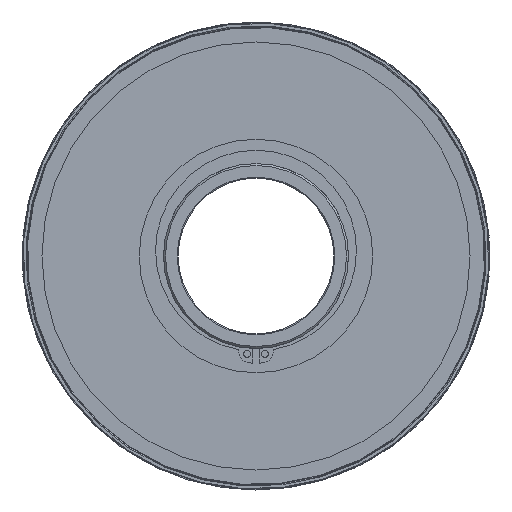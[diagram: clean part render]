
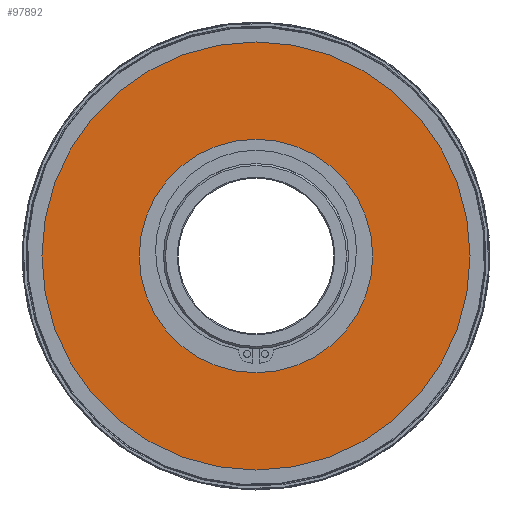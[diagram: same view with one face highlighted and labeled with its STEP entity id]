
A CAD part, left-side view. The second image highlights one B-rep face of the part: STEP entity #97892.
In plain terms, the highlighted planar face has unit normal (-1, 0, 0).
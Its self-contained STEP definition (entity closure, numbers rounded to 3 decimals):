
#447=FACE_BOUND('',#7637,.T.);
#770=PLANE('',#107004);
#2909=FACE_OUTER_BOUND('',#7636,.T.);
#7636=EDGE_LOOP('',(#68908));
#7637=EDGE_LOOP('',(#68909));
#26009=CIRCLE('',#107003,60.);
#26010=CIRCLE('',#107005,110.);
#36783=VERTEX_POINT('',#164821);
#36784=VERTEX_POINT('',#164825);
#49100=EDGE_CURVE('',#36783,#36783,#26009,.T.);
#49102=EDGE_CURVE('',#36784,#36784,#26010,.T.);
#68908=ORIENTED_EDGE('',*,*,#49102,.T.);
#68909=ORIENTED_EDGE('',*,*,#49100,.F.);
#97892=ADVANCED_FACE('',(#2909,#447),#770,.T.);
#107003=AXIS2_PLACEMENT_3D('',#164822,#130649,#130650);
#107004=AXIS2_PLACEMENT_3D('',#164824,#130652,#130653);
#107005=AXIS2_PLACEMENT_3D('',#164826,#130654,#130655);
#130649=DIRECTION('center_axis',(-1.,0.,0.));
#130650=DIRECTION('ref_axis',(0.,0.,
1.));
#130652=DIRECTION('center_axis',(-1.,0.,0.));
#130653=DIRECTION('ref_axis',(0.,0.,
1.));
#130654=DIRECTION('center_axis',(-1.,0.,0.));
#130655=DIRECTION('ref_axis',(0.,0.,
1.));
#164821=CARTESIAN_POINT('',(-21.75,-60.,0.));
#164822=CARTESIAN_POINT('Origin',(-21.75,0.,0.));
#164824=CARTESIAN_POINT('Origin',(-21.75,60.,0.));
#164825=CARTESIAN_POINT('',(-21.75,-110.,0.));
#164826=CARTESIAN_POINT('Origin',(-21.75,0.,0.));
